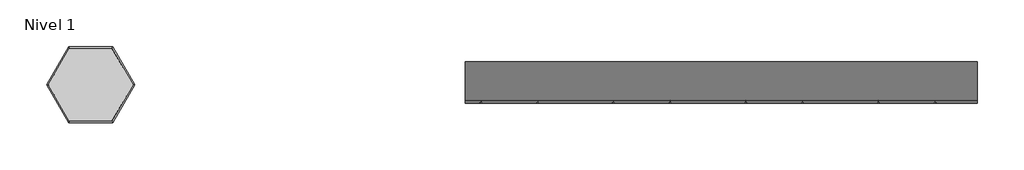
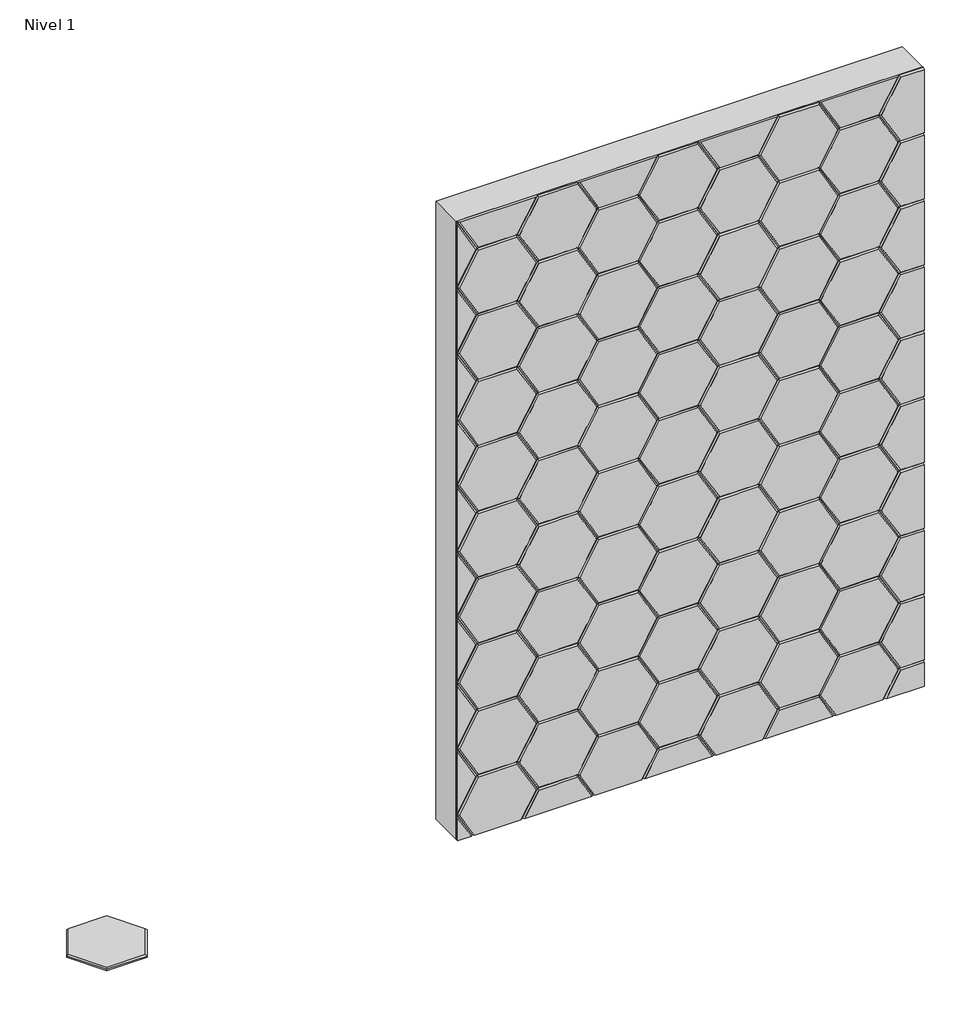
# One storey: 3 proxies.
"""IFC4 building model written with IfcOpenShell, lengths in millimetres."""

from ifc_helpers import new_model, si_unit, origin, place, context, project, spatial, transform, mapped, element, save
from components import generic_models_f8422afb, generic_models_c8057d71, generic_models_3ae3a5dc, proxy_1_3dm_0daf05c3

model = new_model("IFC4")

# Units and contexts
model_context = context("Model", 3, world=origin())
ifc_project = project(units=[si_unit("LENGTHUNIT", "METRE", prefix="MILLI")], contexts=[model_context])

# Site, building, storey
site = spatial("IfcSite", under=ifc_project)
building = spatial("IfcBuilding", under=site)
storey = spatial("IfcBuildingStorey", under=building, Name="Nivel 1", Elevation=0.0)

# Proxies
placement = place(None, origin())
generic_models_shape = generic_models_f8422afb(model_context)
element("IfcBuildingElementProxy", 1, Name="Wall_Clematis 2.3dm", ObjectType="Wall_Clematis 2.3dm", at=placement, inside=storey, context=model_context, shape_type="MappedRepresentation", body=[
    mapped(generic_models_shape, transform((0.0, 0.0, 0.0), x_axis=(1.0, 0.0, 0.0), y_axis=(0.0, 1.0, 0.0), z_axis=(0.0, 0.0, 1.0))),
])
generic_models_2_shape = generic_models_c8057d71(model_context)
generic_models_3_shape = generic_models_3ae3a5dc(model_context)
element("IfcBuildingElementProxy", 2, Name="Wall_Clematis 3.3dm", ObjectType="Wall_Clematis 3.3dm", at=placement, inside=storey, context=model_context, shape_type="MappedRepresentation", body=[
    mapped(generic_models_2_shape, transform((0.0, 0.0, 0.0), x_axis=(1.0, 0.0, 0.0), y_axis=(0.0, 1.0, 0.0), z_axis=(0.0, 0.0, 1.0))),
    mapped(generic_models_3_shape, transform((0.0, 0.0, 0.0), x_axis=(1.0, 0.0, 0.0), y_axis=(0.0, 1.0, 0.0), z_axis=(0.0, 0.0, 1.0))),
])
proxy_1_3dm_shape = proxy_1_3dm_0daf05c3(model_context)
element("IfcBuildingElementProxy", 3, Name="1.3dm", ObjectType="1.3dm", at=placement, inside=storey, context=model_context, shape_type="MappedRepresentation", body=[
    mapped(proxy_1_3dm_shape, transform((0.0, 0.0, 0.0), x_axis=(1.0, 0.0, 0.0), y_axis=(0.0, 1.0, 0.0), z_axis=(0.0, 0.0, 1.0))),
])

save(model, "model.ifc")
